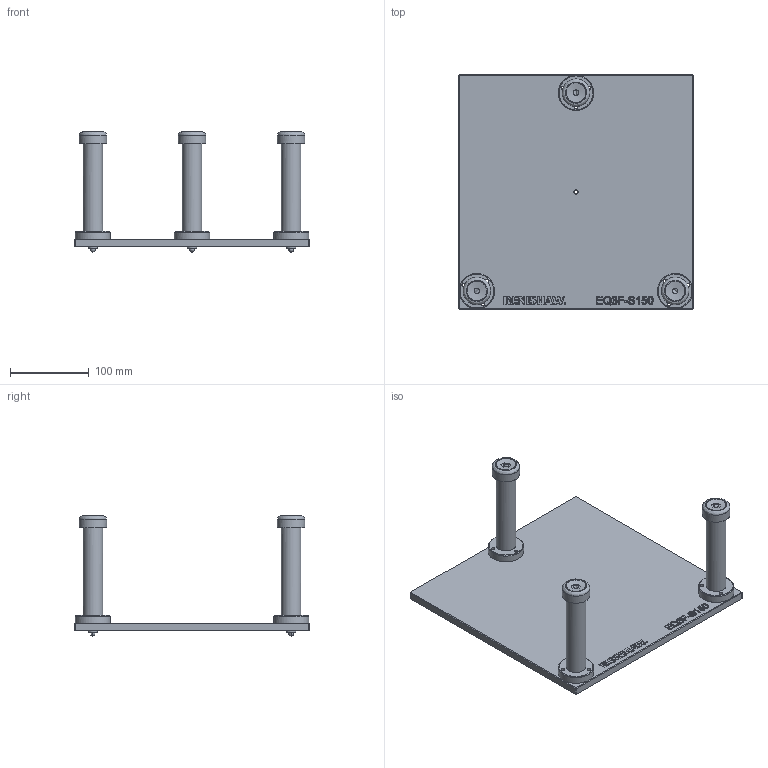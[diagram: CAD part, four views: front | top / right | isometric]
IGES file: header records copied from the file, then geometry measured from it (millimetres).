
Global section: file name: C:\Users\cj134800\Desktop\Fixture Plate Spacer 150\A-5504-0207-01_B.igs; native system: NX V10.0; preprocessor: SIEMENS PLM Software NX 10.0; date: 20171213.104707; units: millimetre
Bounding box: 300 x 300 x 152.9 mm (x, y, z)
Surface area: 254101 mm2 (no closed solid volume)
Topology: 0 solids, 0 shells, 625 faces, 4477 edges, 4300 vertices
Faces by surface type: bspline 625
